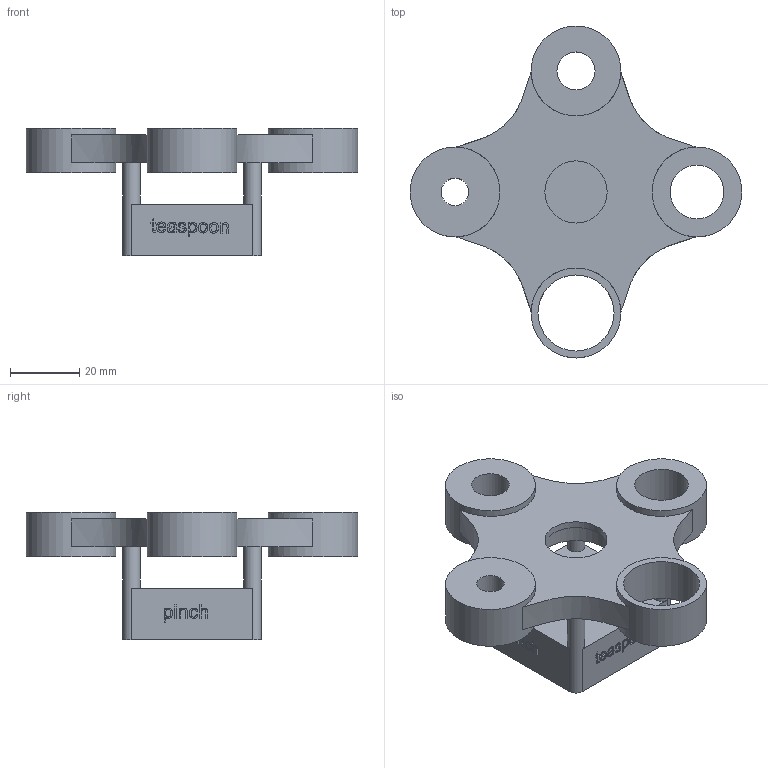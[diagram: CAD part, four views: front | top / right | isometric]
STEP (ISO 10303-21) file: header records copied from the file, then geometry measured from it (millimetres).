
FILE_DESCRIPTION(/* description */ (''),/* implementation_level */ '2;1');
FILE_NAME(/* name */ 'D:/pobrane/pwr/sem 6/konkurs kompozytywni/step/kolowrotek.step',/* time_stamp */ '2021-05-10T22:33:40+02:00',/* author */ (''),/* organization */ (''),/* preprocessor_version */ 'ST-DEVELOPER v18.1',/* originating_system */ 'Autodesk Translation Framework v10.6.0.1341',/* authorisation */ '');
FILE_SCHEMA (('AUTOMOTIVE_DESIGN { 1 0 10303 214 3 1 1 }'));
Length unit declared in the file: millimetre
Products named in the file (1): kolowrotek
Bounding box: 96 x 96 x 37 mm (x, y, z)
Volume: 59600.5 mm3; surface area: 20652.8 mm2
Topology: 1 solids, 1 shells, 790 faces, 2194 edges, 1462 vertices
Faces by surface type: bspline 537, plane 239, cylinder 14
Full cylindrical faces by diameter (mm): 5 x4, 8 x1, 11 x1, 15.5 x1, 18 x1, 22 x2, 26 x4
Entity records: 26458 total; most frequent: CARTESIAN_POINT 9836, ORIENTED_EDGE 4388, EDGE_CURVE 2194, DIRECTION 1670, VERTEX_POINT 1462, LINE 1078, VECTOR 1078, B_SPLINE_CURVE_WITH_KNOTS 1070
